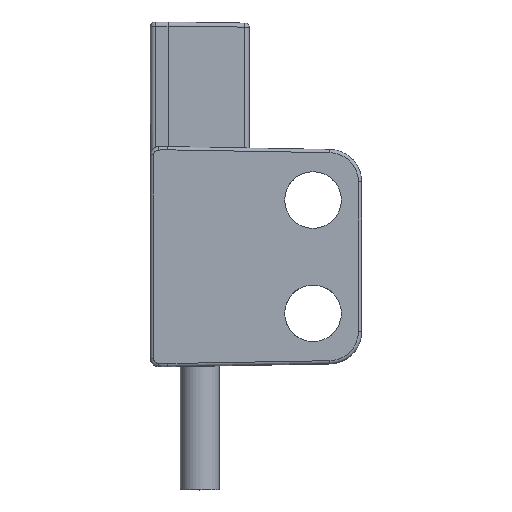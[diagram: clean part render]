
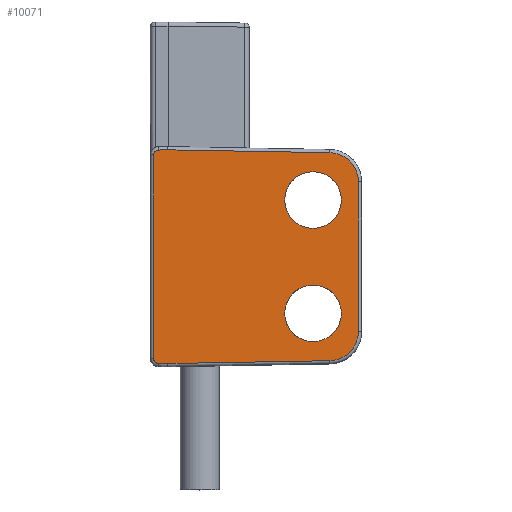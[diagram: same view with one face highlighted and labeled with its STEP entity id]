
A CAD part, top view. The second image highlights one B-rep face of the part: STEP entity #10071.
In plain terms, the highlighted planar face has unit normal (0, 0, 1).
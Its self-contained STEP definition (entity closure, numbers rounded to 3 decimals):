
#3063=CARTESIAN_POINT('',(7.,-9.6,7.));
#3064=DIRECTION('',(0.,0.,-1.));
#3065=DIRECTION('',(1.,0.,0.));
#3066=AXIS2_PLACEMENT_3D('',#3063,#3064,#3065);
#3071=CARTESIAN_POINT('',(7.,-9.6,7.));
#3072=DIRECTION('',(0.,0.,-1.));
#3073=DIRECTION('',(-1.,0.,0.));
#3074=AXIS2_PLACEMENT_3D('',#3071,#3072,#3073);
#3079=CARTESIAN_POINT('',(7.,-2.6,7.));
#3080=DIRECTION('',(0.,0.,-1.));
#3081=DIRECTION('',(1.,0.,0.));
#3082=AXIS2_PLACEMENT_3D('',#3079,#3080,#3081);
#3087=CARTESIAN_POINT('',(7.,-2.6,7.));
#3088=DIRECTION('',(0.,0.,-1.));
#3089=DIRECTION('',(-1.,0.,0.));
#3090=AXIS2_PLACEMENT_3D('',#3087,#3088,#3089);
#3095=DIRECTION('',(-1.,0.017,0.));
#3096=VECTOR('',#3095,9.997);
#3097=CARTESIAN_POINT('',(8.031,0.325,7.));
#3098=LINE('',#3097,#3096);
#3102=CARTESIAN_POINT('',(8.,-1.474,7.));
#3103=DIRECTION('',(0.,0.,1.));
#3104=DIRECTION('',(1.,0.,0.));
#3105=AXIS2_PLACEMENT_3D('',#3102,#3103,#3104);
#3110=DIRECTION('',(0.,1.,0.));
#3111=VECTOR('',#3110,9.252);
#3112=CARTESIAN_POINT('',(9.8,-10.726,7.));
#3113=LINE('',#3112,#3111);
#3117=CARTESIAN_POINT('',(8.,-10.726,7.));
#3118=DIRECTION('',(0.,0.,1.));
#3119=DIRECTION('',(0.017,-1.,0.));
#3120=AXIS2_PLACEMENT_3D('',#3117,#3118,#3119);
#3125=DIRECTION('',(1.,0.017,0.));
#3126=VECTOR('',#3125,9.997);
#3127=CARTESIAN_POINT('',(-1.964,-12.7,7.));
#3128=LINE('',#3127,#3126);
#3132=DIRECTION('',(-1.,0.017,0.));
#3133=VECTOR('',#3132,0.591);
#3134=CARTESIAN_POINT('',(-1.964,-12.7,7.));
#3135=LINE('',#3134,#3133);
#3139=CARTESIAN_POINT('',(-2.55,-12.39,7.));
#3140=DIRECTION('',(0.,0.,-1.));
#3141=DIRECTION('',(-0.017,-1.,0.));
#3142=AXIS2_PLACEMENT_3D('',#3139,#3140,#3141);
#3147=DIRECTION('',(0.,1.,0.));
#3148=VECTOR('',#3147,12.579);
#3149=CARTESIAN_POINT('',(-2.85,-12.39,7.));
#3150=LINE('',#3149,#3148);
#3154=CARTESIAN_POINT('',(-2.55,0.19,7.));
#3155=DIRECTION('',(0.,0.,-1.));
#3156=DIRECTION('',(-1.,0.,0.));
#3157=AXIS2_PLACEMENT_3D('',#3154,#3155,#3156);
#3162=DIRECTION('',(1.,0.017,0.));
#3163=VECTOR('',#3162,0.591);
#3164=CARTESIAN_POINT('',(-2.555,0.49,7.));
#3165=LINE('',#3164,#3163);
#7327=CARTESIAN_POINT('',(8.75,-2.6,7.));
#7328=CARTESIAN_POINT('',(5.25,-2.6,7.));
#7329=VERTEX_POINT('',#7327);
#7330=VERTEX_POINT('',#7328);
#7331=CARTESIAN_POINT('',(8.75,-9.6,7.));
#7332=CARTESIAN_POINT('',(5.25,-9.6,7.));
#7333=VERTEX_POINT('',#7331);
#7334=VERTEX_POINT('',#7332);
#7363=CARTESIAN_POINT('',(8.031,0.325,7.));
#7364=CARTESIAN_POINT('',(-1.964,0.5,7.));
#7365=VERTEX_POINT('',#7363);
#7366=VERTEX_POINT('',#7364);
#7367=CARTESIAN_POINT('',(9.8,-1.474,7.));
#7368=VERTEX_POINT('',#7367);
#7371=CARTESIAN_POINT('',(9.8,-10.726,7.));
#7372=VERTEX_POINT('',#7371);
#7375=CARTESIAN_POINT('',(8.031,-12.525,7.));
#7376=VERTEX_POINT('',#7375);
#7379=CARTESIAN_POINT('',(-1.964,-12.7,7.));
#7380=VERTEX_POINT('',#7379);
#7383=CARTESIAN_POINT('',(-2.555,0.49,7.));
#7384=VERTEX_POINT('',#7383);
#7389=CARTESIAN_POINT('',(-2.85,0.19,7.));
#7390=VERTEX_POINT('',#7389);
#7393=CARTESIAN_POINT('',(-2.85,-12.39,7.));
#7394=VERTEX_POINT('',#7393);
#7397=CARTESIAN_POINT('',(-2.555,-12.69,7.));
#7398=VERTEX_POINT('',#7397);
#10036=CARTESIAN_POINT('',(-3.05,0.,7.));
#10037=DIRECTION('',(0.,0.,1.));
#10038=DIRECTION('',(1.,0.,0.));
#10039=AXIS2_PLACEMENT_3D('',#10036,#10037,#10038);
#10040=PLANE('',#10039);
#10042=ORIENTED_EDGE('',*,*,#10041,.F.);
#10044=ORIENTED_EDGE('',*,*,#10043,.F.);
#10046=ORIENTED_EDGE('',*,*,#10045,.F.);
#10048=ORIENTED_EDGE('',*,*,#10047,.F.);
#10050=ORIENTED_EDGE('',*,*,#10049,.F.);
#10052=ORIENTED_EDGE('',*,*,#10051,.T.);
#10053=ORIENTED_EDGE('',*,*,#9348,.T.);
#10054=ORIENTED_EDGE('',*,*,#9363,.T.);
#10055=ORIENTED_EDGE('',*,*,#9378,.T.);
#10057=ORIENTED_EDGE('',*,*,#10056,.T.);
#10058=EDGE_LOOP('',(#10042,#10044,#10046,#10048,#10050,#10052,#10053,#10054,
#10055,#10057));
#10059=FACE_OUTER_BOUND('',#10058,.F.);
#10060=ORIENTED_EDGE('',*,*,#10026,.F.);
#10062=ORIENTED_EDGE('',*,*,#10061,.F.);
#10063=EDGE_LOOP('',(#10060,#10062));
#10064=FACE_BOUND('',#10063,.F.);
#10066=ORIENTED_EDGE('',*,*,#10065,.F.);
#10068=ORIENTED_EDGE('',*,*,#10067,.F.);
#10069=EDGE_LOOP('',(#10066,#10068));
#10070=FACE_BOUND('',#10069,.F.);
#10071=ADVANCED_FACE('',(#10059,#10064,#10070),#10040,.T.);
#3067=CIRCLE('',#3066,1.75);
#3075=CIRCLE('',#3074,1.75);
#3083=CIRCLE('',#3082,1.75);
#3091=CIRCLE('',#3090,1.75);
#3106=CIRCLE('',#3105,1.8);
#3121=CIRCLE('',#3120,1.8);
#3143=CIRCLE('',#3142,0.3);
#3158=CIRCLE('',#3157,0.3);
#9348=EDGE_CURVE('',#7398,#7394,#3143,.T.);
#9363=EDGE_CURVE('',#7394,#7390,#3150,.T.);
#9378=EDGE_CURVE('',#7390,#7384,#3158,.T.);
#10026=EDGE_CURVE('',#7329,#7330,#3083,.T.);
#10041=EDGE_CURVE('',#7365,#7366,#3098,.T.);
#10043=EDGE_CURVE('',#7368,#7365,#3106,.T.);
#10045=EDGE_CURVE('',#7372,#7368,#3113,.T.);
#10047=EDGE_CURVE('',#7376,#7372,#3121,.T.);
#10049=EDGE_CURVE('',#7380,#7376,#3128,.T.);
#10051=EDGE_CURVE('',#7380,#7398,#3135,.T.);
#10056=EDGE_CURVE('',#7384,#7366,#3165,.T.);
#10061=EDGE_CURVE('',#7330,#7329,#3091,.T.);
#10065=EDGE_CURVE('',#7333,#7334,#3067,.T.);
#10067=EDGE_CURVE('',#7334,#7333,#3075,.T.);
